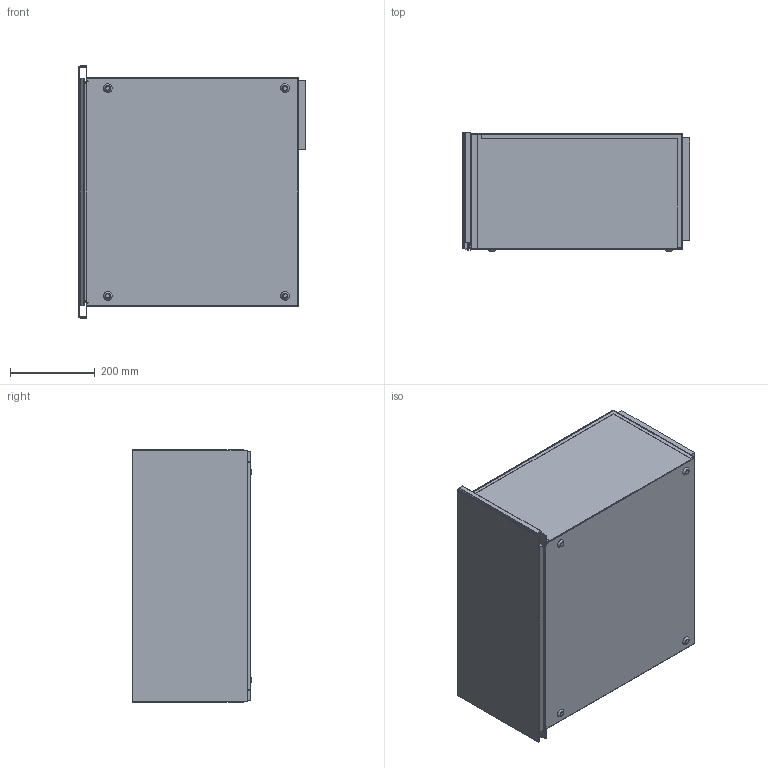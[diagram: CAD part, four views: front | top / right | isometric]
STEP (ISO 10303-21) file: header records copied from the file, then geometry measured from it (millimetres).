
FILE_DESCRIPTION(('CATIA V6 STEP','CAx-IF Rec.Pracs.--- Model Styling and Organization---1.2---2011-12-15'),'2;1');
FILE_NAME('P:\CATIA-UserDaten\3D Planungsdaten\WS-SS\WS_2015-04-16 aktualisiert fuer Albatros\X3401300022-A.stp','2015-04-16T06:40:58+00:00',('none'),('none'),'CATIA Unofficial Packaging Version','DASSAULT SYSTEMES CATIA V6 STEP AP214','none');
FILE_SCHEMA(('AUTOMOTIVE_DESIGN { 1 0 10303 214 1 1 1 1 }'));
Length unit declared in the file: millimetre
Products named in the file (1): 1005006-00
Bounding box: 537 x 281 x 596 mm (x, y, z)
Volume: 6378944.8 mm3; surface area: 3909112.2 mm2
Topology: 11 solids, 12 shells, 253 faces, 625 edges, 394 vertices
Faces by surface type: plane 144, cylinder 79, cone 16, torus 8, sphere 6
Entity records: 7326 total; most frequent: CARTESIAN_POINT 1488, ORIENTED_EDGE 1238, DIRECTION 1031, EDGE_CURVE 619, VECTOR 426, LINE 426, VERTEX_POINT 394, AXIS2_PLACEMENT_3D 382
